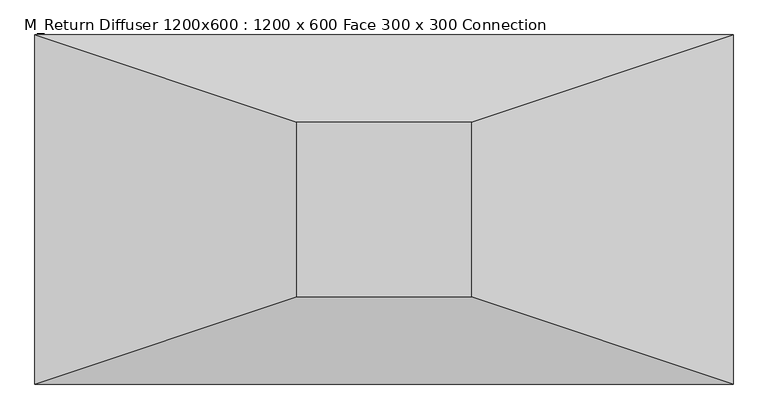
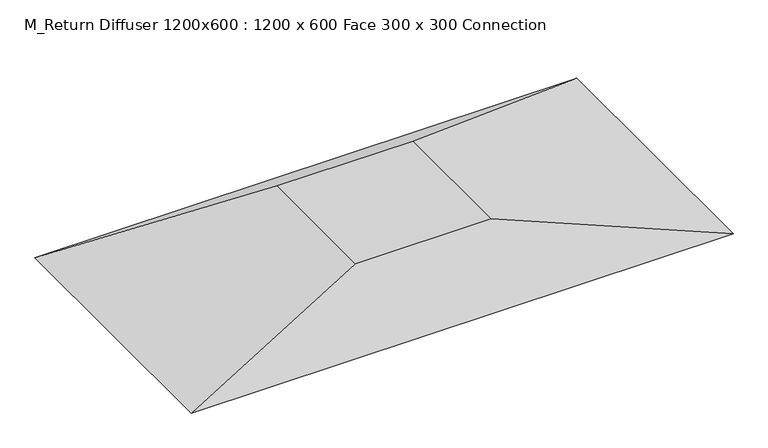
"""IFC4 building model written with IfcOpenShell, lengths in millimetres: air terminal geometry, M_Return Diffuser 1200x600 : 1200 x 600 Face 300 x 300 Connection."""

from ifc_helpers import new_model, si_unit, origin, place, context, project, spatial, faceted_brep, source, transform, mapped, element, save


def m_return_diffuser_1200x600_1200_x_600_face_300_x_300_d1983ef6(model_context):
    return source(origin(), model_context, "Body", "Brep", [
        faceted_brep([(150.0, 150.0, 101.6), (-150.0, 150.0, 101.6), (-150.0, -150.0, 101.6), (150.0, -150.0, 101.6), (600.0, 300.0, 0.0), (600.0, -300.0, 0.0), (-600.0, -300.0, 0.0), (-600.0, 300.0, 0.0)], [[[0, 1, 2, 3]], [[4, 5, 6, 7]], [[4, 7, 1, 0]], [[7, 6, 2, 1]], [[6, 5, 3, 2]], [[5, 4, 0, 3]]]),
    ])


if __name__ == "__main__":
    model = new_model("IFC4")
    model_context = context("Model", 3, world=origin())
    ifc_project = project(units=[si_unit("LENGTHUNIT", "METRE", prefix="MILLI")], contexts=[model_context])
    site = spatial("IfcSite", under=ifc_project)
    building = spatial("IfcBuilding", under=site)
    placement = place(None, origin())
    m_return_diffuser_1200x600_1200_x_600_face_300_x_300_shape = m_return_diffuser_1200x600_1200_x_600_face_300_x_300_d1983ef6(model_context)
    element("IfcAirTerminal", 1, ObjectType="M_Return Diffuser 1200x600 : 1200 x 600 Face 300 x 300 Connection", at=placement, inside=building, context=model_context, shape_type="MappedRepresentation", body=[
        mapped(m_return_diffuser_1200x600_1200_x_600_face_300_x_300_shape, transform((0.0, 0.0, 0.0), x_axis=(1.0, 0.0, 0.0), y_axis=(0.0, 1.0, 0.0), z_axis=(0.0, 0.0, 1.0))),
    ])
    save(model, "model.ifc")
